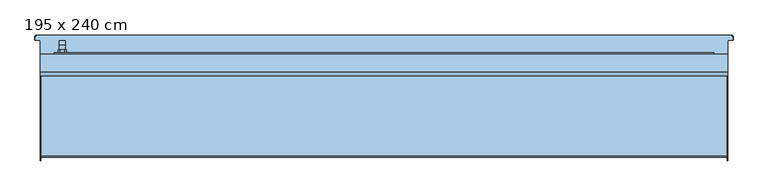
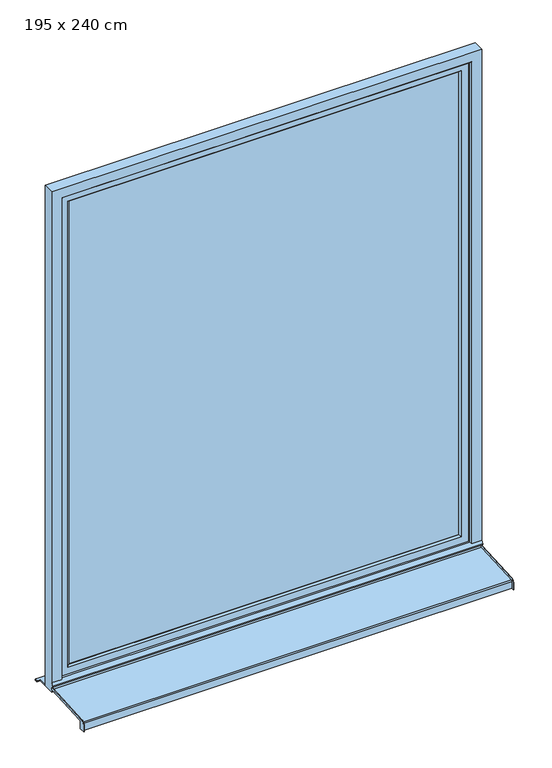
"""IFC4 building model written with IfcOpenShell, lengths in millimetres: window geometry, Fenêtre type 1 : 195 x 240 cm."""

from ifc_helpers import new_model, si_unit, frame, origin, place, context, project, spatial, polyline, circle_curve, outline, extrude, faceted_brep, source, transform, mapped, element, save
from ifc_brep_helpers import plane_surface, cylinder_surface, revolved_surface, advanced_brep


def window_195_x_240_cm_518133bf(model_context):
    return source(origin(), model_context, "Body", "SolidModel", [
        faceted_brep([(-920.5, 123.0, 1306.0), (-920.5, 123.0, 1294.0), (-904.5, 123.0, 1294.0), (-904.5, 123.0, 1306.0), (-904.5, 135.4852814, 1306.0), (-920.5, 135.4852814, 1306.0), (-904.5, 130.5147186, 1294.0), (-904.5, 137.0, 1287.5147186), (-904.5, 137.0, 1287.2282668), (-904.5, 139.7580139, 1208.5355339), (-904.5, 149.0, 1208.5355339), (-904.5, 149.0, 1292.4852814), (-920.5, 130.5147186, 1294.0), (-920.5, 149.0, 1292.4852814), (-920.5, 149.0, 1208.5355339), (-920.5, 139.7580139, 1208.5355339), (-920.5, 137.0099909, 1287.2286157), (-920.5, 137.0, 1287.5147186), (-908.0355339, 149.0, 1205.0), (-908.0355339, 139.8814775, 1205.0), (-916.9644661, 139.8814775, 1205.0), (-916.9644661, 149.0, 1205.0)], [[[0, 1, 2, 3]], [[3, 4, 5, 0]], [[2, 6, 7, 8, 9, 10, 11, 4, 3]], [[1, 12, 6, 2]], [[0, 5, 13, 14, 15, 16, 17, 12, 1]], [[4, 11, 13, 5]], [[6, 12, 17, 7]], [[18, 19, 20, 21]], [[11, 10, 18, 21, 14, 13]], [[17, 16, 8, 7]], [[16, 15, 20, 19, 9, 8]], [[9, 19, 18, 10]], [[14, 21, 20, 15]]]),
        extrude(outline(polyline([(1330.0, -919.5), (1325.0, -924.5), (1275.0, -924.5), (1270.0, -919.5), (1270.0, -905.5), (1275.0, -900.5), (1325.0, -900.5), (1330.0, -905.5), (1330.0, -919.5)])), frame((0.0, 115.0, 0.0), z_axis=(0.0, 1.0, 0.0), x_axis=(0.0, 0.0, 1.0)), (0.0, 0.0, 1.0), 8.0),
        advanced_brep(
        [(-975.0, -165.0, 762.0), (-975.0, -191.5, 762.0), (-975.0, -191.5, 795.1063906), (-975.0, -177.2850393, 810.0858337), (-975.0, 60.0, 822.5214156), (-975.0, 60.0, 811.0056336), (-975.0, -165.0, 799.2138833), (975.0, -165.0, 799.2138833), (975.0, 60.0, 811.0056336), (975.0, 60.0, 822.5214156), (975.0, -177.2850393, 810.0858337), (975.0, -191.5, 795.1063906), (975.0, -191.5, 762.0), (975.0, -165.0, 762.0), (-973.0, 60.0, 822.5214156), (-973.0, 60.0, 812.5076922), (973.0, 60.0, 812.5076922), (973.0, 60.0, 822.5214156), (-973.0, -176.7616798, 800.0995383), (973.0, -176.7616798, 800.0995383), (973.0, -181.5, 795.1063906), (-973.0, -181.5, 795.1063906), (-973.0, -181.5, 762.0), (973.0, -181.5, 762.0), (-973.0, -180.0, 762.0), (973.0, -180.0, 762.0), (973.0, -165.0, 762.0), (973.0, -191.5, 762.0), (-973.0, -191.5, 762.0), (-973.0, -165.0, 762.0), (-973.0, -170.0, 772.0), (973.0, -170.0, 772.0), (-973.0, -171.0606602, 773.0606602), (973.0, -171.0606602, 773.0606602), (-973.0, -180.0, 764.1213203), (973.0, -180.0, 764.1213203), (-973.0, -180.0, 795.0728058), (973.0, -180.0, 795.0728058), (-973.0, -165.0, 799.2138833), (973.0, -165.0, 799.2138833), (973.0, -176.649637, 798.6033517), (-973.0, -176.649637, 798.6033517), (973.0, -191.5, 795.1063906), (973.0, -177.2850393, 810.0858337), (-973.0, -177.2850393, 810.0858337), (-973.0, -191.5, 795.1063906)],
        [
            (0, 1),
            (1, 2),
            (2, 3, circle_curve(frame((-975.0, -176.5, 795.1063906), z_axis=(-1.0, 0.0, 0.0), x_axis=(0.0, -0.05233595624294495, 0.9986295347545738)), 15.0)),
            (3, 4),
            (4, 5),
            (5, 6),
            (6, 0),
            (7, 8),
            (8, 9),
            (9, 10),
            (10, 11, circle_curve(frame((975.0, -176.5, 795.1063906), z_axis=(1.0, 0.0, 0.0), x_axis=(0.0, -1.0, 0.0)), 15.0)),
            (11, 12),
            (12, 13),
            (13, 7),
            (14, 15),
            (15, 16),
            (16, 17),
            (17, 9),
            (8, 5),
            (4, 14),
            (18, 19),
            (19, 16),
            (15, 18),
            (20, 21),
            (21, 22),
            (22, 23),
            (23, 20),
            (24, 25),
            (25, 26),
            (26, 13),
            (12, 27),
            (27, 23),
            (22, 28),
            (28, 1),
            (0, 29),
            (29, 24),
            (30, 31),
            (31, 25),
            (24, 30),
            (32, 33),
            (33, 31),
            (30, 32),
            (34, 35),
            (35, 33),
            (32, 34),
            (36, 37),
            (37, 35),
            (34, 36),
            (38, 6),
            (7, 39),
            (39, 40),
            (40, 41),
            (41, 38),
            (41, 36, circle_curve(frame((-973.0, -176.4646089, 795.0728058), z_axis=(1.0, 0.0, 0.0), x_axis=(0.0, 1.0, 0.0)), 3.5353911)),
            (29, 38),
            (37, 40, circle_curve(frame((973.0, -176.4646089, 795.0728058), z_axis=(-1.0, 0.0, 0.0), x_axis=(0.0, 1.0, 0.0)), 3.5353911)),
            (39, 26),
            (18, 21, circle_curve(frame((-973.0, -176.5, 795.1063906), z_axis=(1.0, 0.0, 0.0), x_axis=(0.0, 1.0, 0.0)), 5.0)),
            (20, 19, circle_curve(frame((973.0, -176.5, 795.1063906), z_axis=(-1.0, 0.0, 0.0), x_axis=(0.0, 1.0, 0.0)), 5.0)),
            (27, 42),
            (42, 43, circle_curve(frame((973.0, -176.5, 795.1063906), z_axis=(-1.0, 0.0, 0.0), x_axis=(0.0, -1.0, 0.0)), 15.0)),
            (43, 17),
            (11, 42),
            (10, 43),
            (14, 44),
            (44, 45, circle_curve(frame((-973.0, -176.5, 795.1063906), z_axis=(1.0, 0.0, 0.0), x_axis=(0.0, -0.05233595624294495, 0.9986295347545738)), 15.0)),
            (45, 28),
            (3, 44),
            (2, 45),
        ],
        [
            plane_surface(frame((-975.0, 60.0, 811.0056336), z_axis=(-1.0, 0.0, 0.0), x_axis=(0.0, 0.0, 1.0))),
            plane_surface(frame((975.0, 60.0, 811.0056336), z_axis=(1.0, 0.0, 0.0), x_axis=(0.0, 0.0, -1.0))),
            plane_surface(frame((-975.0, 60.0, 811.0056336), z_axis=(0.0, 1.0, 0.0), x_axis=(1.0, 0.0, 0.0))),
            plane_surface(frame((-975.0, 60.0, 812.5076922), z_axis=(0.0, -0.05233595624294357, 0.9986295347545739), x_axis=(1.0, 0.0, 0.0))),
            plane_surface(frame((-975.0, -181.5, 795.1063906), z_axis=(0.0, -1.0, 0.0), x_axis=(1.0, 0.0, 0.0))),
            plane_surface(frame((-975.0, -181.5, 762.0), z_axis=(0.0, 0.0, -1.0), x_axis=(1.0, 0.0, 0.0))),
            plane_surface(frame((-975.0, -180.0, 762.0), z_axis=(0.0, 0.7071067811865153, -0.7071067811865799), x_axis=(1.0, 0.0, 0.0))),
            plane_surface(frame((-975.0, -170.0, 772.0), z_axis=(0.0, 0.7071067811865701, 0.707106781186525), x_axis=(1.0, 0.0, 0.0))),
            plane_surface(frame((-975.0, -171.0606602, 773.0606602), z_axis=(0.0, -0.7071067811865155, 0.7071067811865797), x_axis=(1.0, 0.0, 0.0))),
            plane_surface(frame((-975.0, -180.0, 764.1213203), z_axis=(0.0, 1.0, 0.0), x_axis=(1.0, 0.0, 0.0))),
            plane_surface(frame((-975.0, -176.649637, 798.6033517), z_axis=(0.0, 0.052335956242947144, -0.9986295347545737), x_axis=(1.0, 0.0, 0.0))),
            plane_surface(frame((-973.0, -180.0, 798.4277666), z_axis=(1.0, 0.0, 0.0), x_axis=(0.0, 0.9986295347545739, 0.05233595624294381))),
            plane_surface(frame((-975.0, -165.0, 762.0), z_axis=(0.0, 1.0, 0.0), x_axis=(1.0, 0.0, 0.0))),
            plane_surface(frame((973.0, -180.0, 798.4277666), z_axis=(-1.0, 0.0, 0.0), x_axis=(0.0, 0.0, -1.0))),
            plane_surface(frame((973.0, -165.0, 762.0), z_axis=(0.0, 1.0, 0.0), x_axis=(1.0, 0.0, 0.0))),
            cylinder_surface(frame((975.0, -176.5, 795.1063906), z_axis=(-1.0, 0.0, 0.0), x_axis=(0.0, 1.0, 0.0)), 5.0),
            revolved_surface(polyline([(973.0, -172.9292178, 795.0728058), (-973.0, -172.9292178, 795.0728058)]), (975.0, -176.4646089, 795.0728058), (1.0, 0.0, 0.0)),
            plane_surface(frame((973.0, -181.5, 762.0), z_axis=(-1.0, 0.0, 0.0), x_axis=(0.0, 0.0, 1.0))),
            plane_surface(frame((973.0, -191.5, 762.0), z_axis=(0.0, -1.0, 0.0), x_axis=(0.0, 0.0, 1.0))),
            cylinder_surface(frame((975.0, -176.5, 795.1063906), z_axis=(1.0, 0.0, 0.0), x_axis=(0.0, -1.0, 0.0)), 15.0),
            plane_surface(frame((973.0, -177.2850393, 810.0858337), z_axis=(0.0, -0.05233595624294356, 0.9986295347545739), x_axis=(0.0, 0.9986295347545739, 0.05233595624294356))),
            plane_surface(frame((-973.0, 60.0, 822.5214156), z_axis=(1.0, 0.0, 0.0), x_axis=(0.0, 0.9986295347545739, 0.05233595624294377))),
            plane_surface(frame((-975.0, 60.0, 822.5214156), z_axis=(0.0, -0.05233595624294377, 0.9986295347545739), x_axis=(1.0, 0.0, 0.0))),
            cylinder_surface(frame((-975.0, -176.5, 795.1063906), z_axis=(-1.0, 0.0, 0.0), x_axis=(0.0, -0.05233595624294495, 0.9986295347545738)), 15.0),
            plane_surface(frame((-973.0, -191.5, 795.1063906), z_axis=(0.0, -1.0, 0.0), x_axis=(0.0, 0.0, -1.0))),
        ],
        [
            (0, [[1, 2, 3, 4, 5, 6, 7]]),
            (1, [[8, 9, 10, 11, 12, 13, 14]]),
            (2, [[15, 16, 17, 18, -9, 19, -5, 20]]),
            (3, [[21, 22, -16, 23]]),
            (4, [[24, 25, 26, 27]]),
            (5, [[28, 29, 30, -13, 31, 32, -26, 33, 34, -1, 35, 36]]),
            (6, [[37, 38, -28, 39]]),
            (7, [[40, 41, -37, 42]]),
            (8, [[43, 44, -40, 45]]),
            (9, [[46, 47, -43, 48]]),
            (10, [[49, -6, -19, -8, 50, 51, 52, 53]]),
            (11, [[-53, 54, -48, -45, -42, -39, -36, 55]]),
            (12, [[-35, -7, -49, -55]]),
            (13, [[-38, -41, -44, -47, 56, -51, 57, -29]]),
            (14, [[-50, -14, -30, -57]]),
            (15, [[-21, 58, -24, 59]]),
            (16, [[-52, -56, -46, -54]]),
            (17, [[60, 61, 62, -17, -22, -59, -27, -32]]),
            (18, [[-12, 63, -60, -31]]),
            (19, [[64, -61, -63, -11]]),
            (20, [[-10, -18, -62, -64]]),
            (21, [[65, 66, 67, -33, -25, -58, -23, -15]]),
            (22, [[68, -65, -20, -4]]),
            (23, [[69, -66, -68, -3]]),
            (24, [[-34, -67, -69, -2]]),
        ],
    ),
        extrude(outline(polyline([(-885.0, 105.0), (885.0, 105.0), (885.0, 85.0), (-885.0, 85.0), (-885.0, 105.0)])), frame((0.0, 0.0, 890.0), z_axis=(0.0, 0.0, 1.0), x_axis=(1.0, 0.0, 0.0)), (0.0, 0.0, 1.0), 2220.0),
        faceted_brep([(-935.0, 115.0, 840.0), (935.0, 115.0, 840.0), (935.0, 75.0, 840.0), (-935.0, 75.0, 840.0), (935.0, 115.0, 3160.0), (935.0, 75.0, 3160.0), (-935.0, 75.0, 3160.0), (892.0710678, 75.0, 3117.0710678), (892.0710678, 75.0, 882.9289322), (-892.0710678, 75.0, 882.9289322), (-892.0710678, 75.0, 3117.0710678), (-935.0, 115.0, 3160.0), (892.0710678, 115.0, 882.9289322), (892.0710678, 115.0, 3117.0710678), (-892.0710678, 115.0, 3117.0710678), (-892.0710678, 115.0, 882.9289322), (-885.0, 107.9289322, 890.0), (885.0, 107.9289322, 890.0), (885.0, 107.9289322, 3110.0), (885.0, 82.0710678, 890.0), (885.0, 82.0710678, 3110.0), (-885.0, 82.0710678, 890.0), (-885.0, 107.9289322, 3110.0), (-885.0, 82.0710678, 3110.0)], [[[0, 1, 2, 3]], [[1, 4, 5, 2]], [[2, 5, 6, 3], [7, 8, 9, 10]], [[4, 1, 0, 11], [12, 13, 14, 15]], [[16, 17, 12, 15]], [[17, 18, 13, 12]], [[19, 20, 18, 17]], [[9, 8, 19, 21]], [[8, 7, 20, 19]], [[11, 0, 3, 6]], [[22, 16, 15, 14]], [[23, 21, 16, 22]], [[10, 9, 21, 23]], [[21, 19, 17, 16]], [[4, 11, 6, 5]], [[18, 22, 14, 13]], [[7, 10, 23, 20]], [[20, 23, 22, 18]]]),
        faceted_brep([(975.0, 60.0, 800.0), (975.0, 110.0, 800.0), (975.0, 110.0, 3200.0), (975.0, 60.0, 3200.0), (975.0, 60.0, 845.0), (975.0, 50.0, 835.0), (975.0, 50.0, 830.0), (975.0, 60.0, 830.0), (-975.0, 60.0, 830.0), (-975.0, 60.0, 800.0), (-975.0, 50.0, 830.0), (-975.0, 50.0, 835.0), (930.0, 60.0, 845.0), (925.0, 65.0, 850.0), (-925.0, 65.0, 850.0), (-930.0, 60.0, 845.0), (-975.0, 60.0, 845.0), (-975.0, 60.0, 3200.0), (-930.0, 60.0, 3155.0), (930.0, 60.0, 3155.0), (-975.0, 110.0, 800.0), (-975.0, 110.0, 3200.0), (935.0, 110.0, 840.0), (935.0, 110.0, 3160.0), (-935.0, 110.0, 3160.0), (-935.0, 110.0, 840.0), (-935.0, 75.0, 840.0), (935.0, 75.0, 840.0), (-935.0, 75.0, 3160.0), (935.0, 75.0, 3160.0), (925.0, 75.0, 850.0), (925.0, 75.0, 3150.0), (-925.0, 75.0, 3150.0), (-925.0, 75.0, 850.0), (-925.0, 65.0, 3150.0), (925.0, 65.0, 3150.0)], [[[0, 1, 2, 3, 4, 5, 6, 7]], [[7, 8, 9, 0]], [[6, 10, 8, 7]], [[5, 11, 10, 6]], [[5, 4, 12, 13, 14, 15, 16, 11]], [[17, 16, 15, 18, 19, 12, 4, 3]], [[1, 20, 21, 2], [22, 23, 24, 25]], [[0, 9, 20, 1]], [[9, 8, 10, 11, 16, 17, 21, 20]], [[25, 26, 27, 22]], [[26, 25, 24, 28]], [[22, 27, 29, 23]], [[29, 27, 26, 28], [30, 31, 32, 33]], [[33, 14, 13, 30]], [[34, 14, 33, 32]], [[31, 30, 13, 35]], [[35, 13, 12, 19]], [[18, 15, 14, 34]], [[3, 2, 21, 17]], [[28, 24, 23, 29]], [[31, 35, 34, 32]], [[18, 34, 35, 19]]]),
        advanced_brep(
        [(975.0, 150.0, 805.0), (988.9971508, 150.0, 805.0), (988.9971508, 160.0, 805.0), (985.0, 163.9971508, 805.0), (-985.0, 163.9971508, 805.0), (-988.9971508, 160.0, 805.0), (-988.9971508, 150.0, 805.0), (-975.0, 150.0, 805.0), (-975.0, 110.0, 805.0), (975.0, 110.0, 805.0), (-975.0, 150.0, 800.0), (-988.9971508, 150.0, 800.0), (-988.9971508, 160.0, 800.0), (-985.0, 163.9971508, 800.0), (985.0, 163.9971508, 800.0), (988.9971508, 160.0, 800.0), (988.9971508, 150.0, 800.0), (975.0, 150.0, 800.0), (975.0, 110.0, 800.0), (-975.0, 110.0, 800.0), (-990.0, 160.0, 801.0028492), (-990.0, 150.0, 801.0028492), (-990.0, 150.0, 803.9971508), (-990.0, 160.0, 803.9971508), (990.0, 150.0, 801.0028492), (990.0, 150.0, 803.9971508), (990.0, 160.0, 801.0028492), (990.0, 160.0, 803.9971508), (985.0, 165.0, 801.0028492), (-985.0, 165.0, 801.0028492), (-985.0, 165.0, 803.9971508), (985.0, 165.0, 803.9971508)],
        [
            (0, 1),
            (1, 2),
            (2, 3, circle_curve(frame((985.0, 160.0, 805.0), z_axis=(0.0, 0.0, 1.0), x_axis=(0.0, 1.0, 0.0)), 3.9971508)),
            (3, 4),
            (4, 5, circle_curve(frame((-985.0, 160.0, 805.0), z_axis=(0.0, 0.0, 1.0), x_axis=(-1.0, 0.0, 0.0)), 3.9971508)),
            (5, 6),
            (6, 7),
            (7, 8),
            (8, 9),
            (9, 0),
            (10, 11),
            (11, 12),
            (12, 13, circle_curve(frame((-985.0, 160.0, 800.0), z_axis=(0.0, 0.0, -1.0), x_axis=(-1.0, 0.0, 0.0)), 3.9971508)),
            (13, 14),
            (14, 15, circle_curve(frame((985.0, 160.0, 800.0), z_axis=(0.0, 0.0, -1.0), x_axis=(0.0, 1.0, 0.0)), 3.9971508)),
            (15, 16),
            (16, 17),
            (17, 18),
            (18, 19),
            (19, 10),
            (20, 21),
            (21, 22),
            (22, 23),
            (23, 20),
            (6, 22),
            (21, 11),
            (10, 7),
            (19, 8),
            (18, 9),
            (17, 0),
            (16, 24),
            (24, 25),
            (25, 1),
            (24, 26),
            (26, 27),
            (27, 25),
            (28, 29),
            (29, 30),
            (30, 31),
            (31, 28),
            (31, 27, circle_curve(frame((985.0, 160.0, 803.9971508), z_axis=(0.0, 0.0, -1.0), x_axis=(0.0, 1.0, 0.0)), 5.0)),
            (26, 28, circle_curve(frame((985.0, 160.0, 801.0028492), z_axis=(0.0, 0.0, 1.0), x_axis=(0.0, 1.0, 0.0)), 5.0)),
            (23, 30, circle_curve(frame((-985.0, 160.0, 803.9971508), z_axis=(0.0, 0.0, -1.0), x_axis=(0.0, 1.0, 0.0)), 5.0)),
            (29, 20, circle_curve(frame((-985.0, 160.0, 801.0028492), z_axis=(0.0, 0.0, 1.0), x_axis=(0.0, 1.0, 0.0)), 5.0)),
            (5, 23),
            (20, 12),
            (4, 30),
            (29, 13),
            (3, 31),
            (28, 14),
            (2, 27),
            (26, 15),
        ],
        [
            plane_surface(frame((-990.0, 150.0, 805.0), z_axis=(0.0, 0.0, 1.0), x_axis=(0.0, 1.0, 0.0))),
            plane_surface(frame((-990.0, 150.0, 800.0), z_axis=(0.0, 0.0, -1.0), x_axis=(0.0, -1.0, 0.0))),
            plane_surface(frame((-990.0, 160.0, 800.0), z_axis=(-1.0, 0.0, 0.0), x_axis=(0.0, 0.0, 1.0))),
            plane_surface(frame((-990.0, 150.0, 800.0), z_axis=(0.0, -1.0, 0.0), x_axis=(0.0, 0.0, 1.0))),
            plane_surface(frame((-975.0, 150.0, 800.0), z_axis=(-1.0, 0.0, 0.0), x_axis=(0.0, 0.0, 1.0))),
            plane_surface(frame((-975.0, 110.0, 800.0), z_axis=(0.0, -1.0, 0.0), x_axis=(0.0, 0.0, 1.0))),
            plane_surface(frame((975.0, 110.0, 800.0), z_axis=(1.0, 0.0, 0.0), x_axis=(0.0, 0.0, 1.0))),
            plane_surface(frame((975.0, 150.0, 800.0), z_axis=(0.0, -1.0, 0.0), x_axis=(0.0, 0.0, 1.0))),
            plane_surface(frame((990.0, 150.0, 800.0), z_axis=(1.0, 0.0, 0.0), x_axis=(0.0, 0.0, 1.0))),
            plane_surface(frame((985.0, 165.0, 800.0), z_axis=(0.0, 1.0, 0.0), x_axis=(0.0, 0.0, 1.0))),
            cylinder_surface(frame((985.0, 160.0, 805.0), z_axis=(0.0, 0.0, -1.0), x_axis=(0.0, 1.0, 0.0)), 5.0),
            cylinder_surface(frame((-985.0, 160.0, 805.0), z_axis=(0.0, 0.0, -1.0), x_axis=(0.0, 1.0, 0.0)), 5.0),
            plane_surface(frame((-988.9971508, 150.0, 805.0), z_axis=(-0.7071067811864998, 0.0, 0.7071067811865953), x_axis=(0.0, 1.0, 0.0))),
            plane_surface(frame((-990.0, 150.0, 801.0028492), z_axis=(-0.7071067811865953, 0.0, -0.7071067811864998), x_axis=(0.0, 1.0, 0.0))),
            revolved_surface(polyline([(-990.0, 160.0, 803.9971508), (-988.9971508, 160.0, 805.0)]), (-985.0, 160.0, 805.0), (0.0, 0.0, 1.0)),
            revolved_surface(polyline([(-988.9971508, 160.0, 800.0), (-990.0, 160.0, 801.0028492)]), (-985.0, 160.0, 805.0), (0.0, 0.0, 1.0)),
            plane_surface(frame((-985.0, 163.9971508, 805.0), z_axis=(0.0, 0.7071067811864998, 0.7071067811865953), x_axis=(1.0, 0.0, 0.0))),
            plane_surface(frame((-985.0, 165.0, 801.0028492), z_axis=(0.0, 0.7071067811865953, -0.7071067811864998), x_axis=(1.0, 0.0, 0.0))),
            revolved_surface(polyline([(985.0, 165.0, 803.9971508), (985.0, 163.9971508, 805.0)]), (985.0, 160.0, 805.0), (0.0, 0.0, 1.0)),
            revolved_surface(polyline([(985.0, 163.9971508, 800.0), (985.0, 165.0, 801.0028492)]), (985.0, 160.0, 805.0), (0.0, 0.0, 1.0)),
            plane_surface(frame((988.9971508, 160.0, 805.0), z_axis=(0.7071067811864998, 0.0, 0.7071067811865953), x_axis=(0.0, -1.0, 0.0))),
            plane_surface(frame((990.0, 160.0, 801.0028492), z_axis=(0.7071067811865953, 0.0, -0.7071067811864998), x_axis=(0.0, -1.0, 0.0))),
        ],
        [
            (0, [[1, 2, 3, 4, 5, 6, 7, 8, 9, 10]]),
            (1, [[11, 12, 13, 14, 15, 16, 17, 18, 19, 20]]),
            (2, [[21, 22, 23, 24]]),
            (3, [[-7, 25, -22, 26, -11, 27]]),
            (4, [[-27, -20, 28, -8]]),
            (5, [[-28, -19, 29, -9]]),
            (6, [[-29, -18, 30, -10]]),
            (7, [[-17, 31, 32, 33, -1, -30]]),
            (8, [[34, 35, 36, -32]]),
            (9, [[37, 38, 39, 40]]),
            (10, [[41, -35, 42, -40]]),
            (11, [[43, -38, 44, -24]]),
            (12, [[-23, -25, -6, 45]]),
            (13, [[-12, -26, -21, 46]]),
            (14, [[-5, 47, -43, -45]]),
            (15, [[-44, 48, -13, -46]]),
            (16, [[-4, 49, -39, -47]]),
            (17, [[-37, 50, -14, -48]]),
            (18, [[-3, 51, -41, -49]]),
            (19, [[-42, 52, -15, -50]]),
            (20, [[-2, -33, -36, -51]]),
            (21, [[-34, -31, -16, -52]]),
        ],
    ),
    ])


if __name__ == "__main__":
    model = new_model("IFC4")
    model_context = context("Model", 3, world=origin())
    ifc_project = project(units=[si_unit("LENGTHUNIT", "METRE", prefix="MILLI")], contexts=[model_context])
    site = spatial("IfcSite", under=ifc_project)
    building = spatial("IfcBuilding", under=site)
    placement = place(None, origin())
    window_195_x_240_cm_shape = window_195_x_240_cm_518133bf(model_context)
    element("IfcWindow", 1, ObjectType="Fenêtre type 1 : 195 x 240 cm", at=placement, inside=building, context=model_context, shape_type="MappedRepresentation", body=[
        mapped(window_195_x_240_cm_shape, transform((0.0, 0.0, 0.0), x_axis=(1.0, 0.0, 0.0), y_axis=(0.0, 1.0, 0.0), z_axis=(0.0, 0.0, 1.0))),
    ])
    save(model, "model.ifc")
